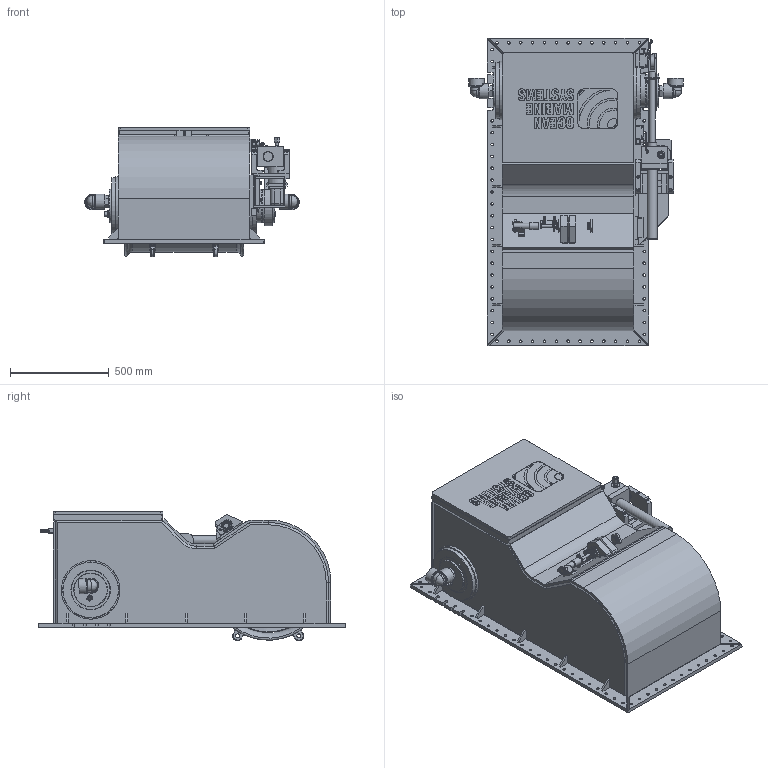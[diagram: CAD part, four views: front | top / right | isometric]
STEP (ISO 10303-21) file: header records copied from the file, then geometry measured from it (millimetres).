
FILE_DESCRIPTION(/* description */ (''),/* implementation_level */ '2;1');
FILE_NAME(/* name */ 'Q:\THRUSTERS\THRUSTER SALES & SUPPORT DOCS\THRUSTER Sales\H-S\H-0500-S\H-0500-S-RETRACTED.stp',/* time_stamp */ '2021-01-26T14:15:32+00:00',/* author */ ('Barney.Webborn'),/* organization */ (''),/* preprocessor_version */ 'ST-DEVELOPER v17.2',/* originating_system */ 'Autodesk Inventor 2019',/* authorisation */ '');
FILE_SCHEMA (('AUTOMOTIVE_DESIGN { 1 0 10303 214 3 1 1 }'));
Length unit declared in the file: millimetre
Products named in the file (1): H-0500-S_Shrinkwrap_1
Bounding box: 1084 x 1557 x 655.09 mm (x, y, z)
Volume: 111683826.4 mm3; surface area: 14930362.7 mm2
Topology: 10 solids, 10 shells, 2619 faces, 6960 edges, 4479 vertices
Faces by surface type: plane 1521, cylinder 593, cone 207, bspline 155, torus 117, sphere 26
Full cylindrical faces by diameter (mm): 2.5 x2, 3 x6, 3.36 x1, 7.2 x2, 8 x2, 8.5 x8, 10 x2, 12 x1, 12.4 x4, 13 x68, 15 x4, 15.6 x1, 16 x11, 17 x4, 17.29 x1, 17.5 x2, 18.25 x2, 18.376 x2, 18.75 x2, 19 x2, 20 x7, 22.857 x1, 25 x4, 26.25 x1, 26.667 x1, 27 x1, 28 x1, 28.689 x1, 30 x3, 31.75 x4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
Entity records: 89103 total; most frequent: CARTESIAN_POINT 21053, ORIENTED_EDGE 13804, DIRECTION 13178, EDGE_CURVE 6902, AXIS2_PLACEMENT_3D 4481, VERTEX_POINT 4479, LINE 4216, VECTOR 4216
